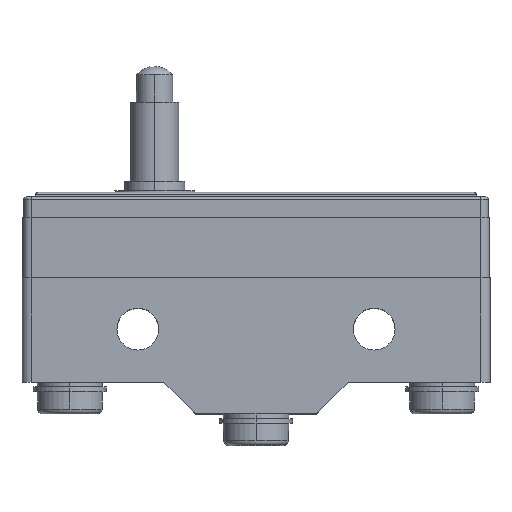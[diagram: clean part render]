
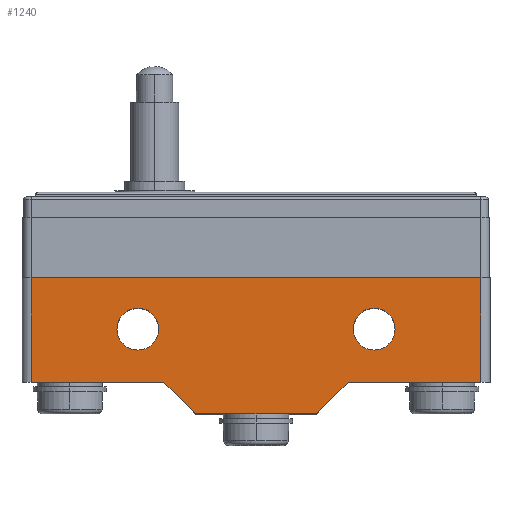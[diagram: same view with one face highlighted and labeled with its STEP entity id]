
A CAD part, top view. The second image highlights one B-rep face of the part: STEP entity #1240.
In plain terms, the highlighted planar face has unit normal (0, 0, 1).
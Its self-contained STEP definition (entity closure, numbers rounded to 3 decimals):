
#191 = EDGE_LOOP ( 'NONE', ( #2008, #2012, #2011, #2013, #2014, #2015, #2016, #2017 ) ) ;
#192 = EDGE_LOOP ( 'NONE', ( #2006, #2010 ) ) ;
#193 = EDGE_LOOP ( 'NONE', ( #2007, #2009 ) ) ;
#315 = PLANE ( 'NONE',  #2834 ) ;
#316 = CARTESIAN_POINT ( 'NONE',  ( 0., 0., 9. ) ) ;
#317 = DIRECTION ( 'NONE',  ( 0., 0., -1. ) ) ;
#318 = DIRECTION ( 'NONE',  ( -1., 0., 0. ) ) ;
#713 = CARTESIAN_POINT ( 'NONE',  ( -9.9, -8.5, 9. ) ) ;
#714 = CARTESIAN_POINT ( 'NONE',  ( -24.15, -8.5, 9. ) ) ;
#715 = CARTESIAN_POINT ( 'NONE',  ( 24.15, 2.7, 9. ) ) ;
#716 = CARTESIAN_POINT ( 'NONE',  ( -24.15, 2.7, 9. ) ) ;
#759 = CARTESIAN_POINT ( 'NONE',  ( -6.5, -11.9, 9. ) ) ;
#760 = CARTESIAN_POINT ( 'NONE',  ( 6.5, -11.9, 9. ) ) ;
#772 = CARTESIAN_POINT ( 'NONE',  ( 9.9, -8.5, 9. ) ) ;
#773 = CARTESIAN_POINT ( 'NONE',  ( 24.15, -8.5, 9. ) ) ;
#817 = CARTESIAN_POINT ( 'NONE',  ( -14.95, -2.8, 9. ) ) ;
#818 = CARTESIAN_POINT ( 'NONE',  ( -10.45, -2.8, 9. ) ) ;
#875 = CARTESIAN_POINT ( 'NONE',  ( 10.45, -2.8, 9. ) ) ;
#878 = CARTESIAN_POINT ( 'NONE',  ( 14.95, -2.8, 9. ) ) ;
#1043 = LINE ( 'NONE', #1044, #2522 ) ;
#1044 = CARTESIAN_POINT ( 'NONE',  ( 6.5, -11.9, 9. ) ) ;
#1045 = DIRECTION ( 'NONE',  ( 1., 0., 0. ) ) ;
#1240 = ADVANCED_FACE ( 'NONE', ( #2928, #2403, #2594 ), #315, .F. ) ;
#1392 = CIRCLE ( 'NONE', #2379, 2.25 ) ;
#1393 = CIRCLE ( 'NONE', #2476, 2.25 ) ;
#1447 = CIRCLE ( 'NONE', #2873, 2.25 ) ;
#1452 = CIRCLE ( 'NONE', #2527, 2.25 ) ;
#1684 = VERTEX_POINT ( 'NONE', #713 ) ;
#1685 = VERTEX_POINT ( 'NONE', #714 ) ;
#1686 = VERTEX_POINT ( 'NONE', #715 ) ;
#1687 = VERTEX_POINT ( 'NONE', #716 ) ;
#1730 = VERTEX_POINT ( 'NONE', #759 ) ;
#1731 = VERTEX_POINT ( 'NONE', #760 ) ;
#1743 = VERTEX_POINT ( 'NONE', #772 ) ;
#1744 = VERTEX_POINT ( 'NONE', #773 ) ;
#1788 = VERTEX_POINT ( 'NONE', #817 ) ;
#1789 = VERTEX_POINT ( 'NONE', #818 ) ;
#1846 = VERTEX_POINT ( 'NONE', #875 ) ;
#1849 = VERTEX_POINT ( 'NONE', #878 ) ;
#2006 = ORIENTED_EDGE ( 'NONE', *, *, #3194, .F. ) ;
#2007 = ORIENTED_EDGE ( 'NONE', *, *, #3195, .F. ) ;
#2008 = ORIENTED_EDGE ( 'NONE', *, *, #3192, .F. ) ;
#2009 = ORIENTED_EDGE ( 'NONE', *, *, #3321, .F. ) ;
#2010 = ORIENTED_EDGE ( 'NONE', *, *, #3331, .F. ) ;
#2011 = ORIENTED_EDGE ( 'NONE', *, *, #3191, .T. ) ;
#2012 = ORIENTED_EDGE ( 'NONE', *, *, #3193, .T. ) ;
#2013 = ORIENTED_EDGE ( 'NONE', *, *, #3190, .T. ) ;
#2014 = ORIENTED_EDGE ( 'NONE', *, *, #3046, .T. ) ;
#2015 = ORIENTED_EDGE ( 'NONE', *, *, #3189, .T. ) ;
#2016 = ORIENTED_EDGE ( 'NONE', *, *, #3273, .T. ) ;
#2017 = ORIENTED_EDGE ( 'NONE', *, *, #3188, .T. ) ;
#2369 = VECTOR ( 'NONE', #3702, 1000. ) ;
#2379 = AXIS2_PLACEMENT_3D ( 'NONE', #3699, #3718, #3719 ) ;
#2403 = FACE_BOUND ( 'NONE', #192, .T. ) ;
#2476 = AXIS2_PLACEMENT_3D ( 'NONE', #3720, #3721, #3722 ) ;
#2522 = VECTOR ( 'NONE', #1045, 1000. ) ;
#2527 = AXIS2_PLACEMENT_3D ( 'NONE', #4133, #4140, #4141 ) ;
#2558 = VECTOR ( 'NONE', #3705, 1000. ) ;
#2588 = VECTOR ( 'NONE', #3717, 1000. ) ;
#2589 = VECTOR ( 'NONE', #3714, 1000. ) ;
#2594 = FACE_OUTER_BOUND ( 'NONE', #191, .T. ) ;
#2611 = VECTOR ( 'NONE', #3708, 1000. ) ;
#2769 = VECTOR ( 'NONE', #3711, 1000. ) ;
#2834 = AXIS2_PLACEMENT_3D ( 'NONE', #316, #317, #318 ) ;
#2873 = AXIS2_PLACEMENT_3D ( 'NONE', #4103, #4110, #4111 ) ;
#2919 = VECTOR ( 'NONE', #3963, 1000. ) ;
#2928 = FACE_BOUND ( 'NONE', #193, .T. ) ;
#3046 = EDGE_CURVE ( 'NONE', #1730, #1731, #1043, .T. ) ;
#3188 = EDGE_CURVE ( 'NONE', #1744, #1686, #3700, .T. ) ;
#3189 = EDGE_CURVE ( 'NONE', #1731, #1743, #3703, .T. ) ;
#3190 = EDGE_CURVE ( 'NONE', #1684, #1730, #3706, .T. ) ;
#3191 = EDGE_CURVE ( 'NONE', #1685, #1684, #3709, .T. ) ;
#3192 = EDGE_CURVE ( 'NONE', #1687, #1686, #3712, .T. ) ;
#3193 = EDGE_CURVE ( 'NONE', #1687, #1685, #3715, .T. ) ;
#3194 = EDGE_CURVE ( 'NONE', #1789, #1788, #1392, .T. ) ;
#3195 = EDGE_CURVE ( 'NONE', #1849, #1846, #1393, .T. ) ;
#3273 = EDGE_CURVE ( 'NONE', #1743, #1744, #3961, .T. ) ;
#3321 = EDGE_CURVE ( 'NONE', #1846, #1849, #1447, .T. ) ;
#3331 = EDGE_CURVE ( 'NONE', #1788, #1789, #1452, .T. ) ;
#3699 = CARTESIAN_POINT ( 'NONE',  ( -12.7, -2.8, 9. ) ) ;
#3700 = LINE ( 'NONE', #3701, #2369 ) ;
#3701 = CARTESIAN_POINT ( 'NONE',  ( 24.15, 0., 9. ) ) ;
#3702 = DIRECTION ( 'NONE',  ( 0., 1., 0. ) ) ;
#3703 = LINE ( 'NONE', #3704, #2558 ) ;
#3704 = CARTESIAN_POINT ( 'NONE',  ( 9.9, -8.5, 9. ) ) ;
#3705 = DIRECTION ( 'NONE',  ( 0.707, 0.707, 0. ) ) ;
#3706 = LINE ( 'NONE', #3707, #2611 ) ;
#3707 = CARTESIAN_POINT ( 'NONE',  ( -6.5, -11.9, 9. ) ) ;
#3708 = DIRECTION ( 'NONE',  ( 0.707, -0.707, 0. ) ) ;
#3709 = LINE ( 'NONE', #3710, #2769 ) ;
#3710 = CARTESIAN_POINT ( 'NONE',  ( -9.9, -8.5, 9. ) ) ;
#3711 = DIRECTION ( 'NONE',  ( 1., 0., 0. ) ) ;
#3712 = LINE ( 'NONE', #3713, #2589 ) ;
#3713 = CARTESIAN_POINT ( 'NONE',  ( -24.15, 2.7, 9. ) ) ;
#3714 = DIRECTION ( 'NONE',  ( 1., 0., 0. ) ) ;
#3715 = LINE ( 'NONE', #3716, #2588 ) ;
#3716 = CARTESIAN_POINT ( 'NONE',  ( -24.15, 0., 9. ) ) ;
#3717 = DIRECTION ( 'NONE',  ( 0., -1., 0. ) ) ;
#3718 = DIRECTION ( 'NONE',  ( 0., 0., 1. ) ) ;
#3719 = DIRECTION ( 'NONE',  ( 1., 0., 0. ) ) ;
#3720 = CARTESIAN_POINT ( 'NONE',  ( 12.7, -2.8, 9. ) ) ;
#3721 = DIRECTION ( 'NONE',  ( 0., 0., 1. ) ) ;
#3722 = DIRECTION ( 'NONE',  ( 1., 0., 0. ) ) ;
#3961 = LINE ( 'NONE', #3962, #2919 ) ;
#3962 = CARTESIAN_POINT ( 'NONE',  ( 25.15, -8.5, 9. ) ) ;
#3963 = DIRECTION ( 'NONE',  ( 1., 0., 0. ) ) ;
#4103 = CARTESIAN_POINT ( 'NONE',  ( 12.7, -2.8, 9. ) ) ;
#4110 = DIRECTION ( 'NONE',  ( 0., 0., 1. ) ) ;
#4111 = DIRECTION ( 'NONE',  ( 1., 0., 0. ) ) ;
#4133 = CARTESIAN_POINT ( 'NONE',  ( -12.7, -2.8, 9. ) ) ;
#4140 = DIRECTION ( 'NONE',  ( 0., 0., 1. ) ) ;
#4141 = DIRECTION ( 'NONE',  ( 1., 0., 0. ) ) ;
